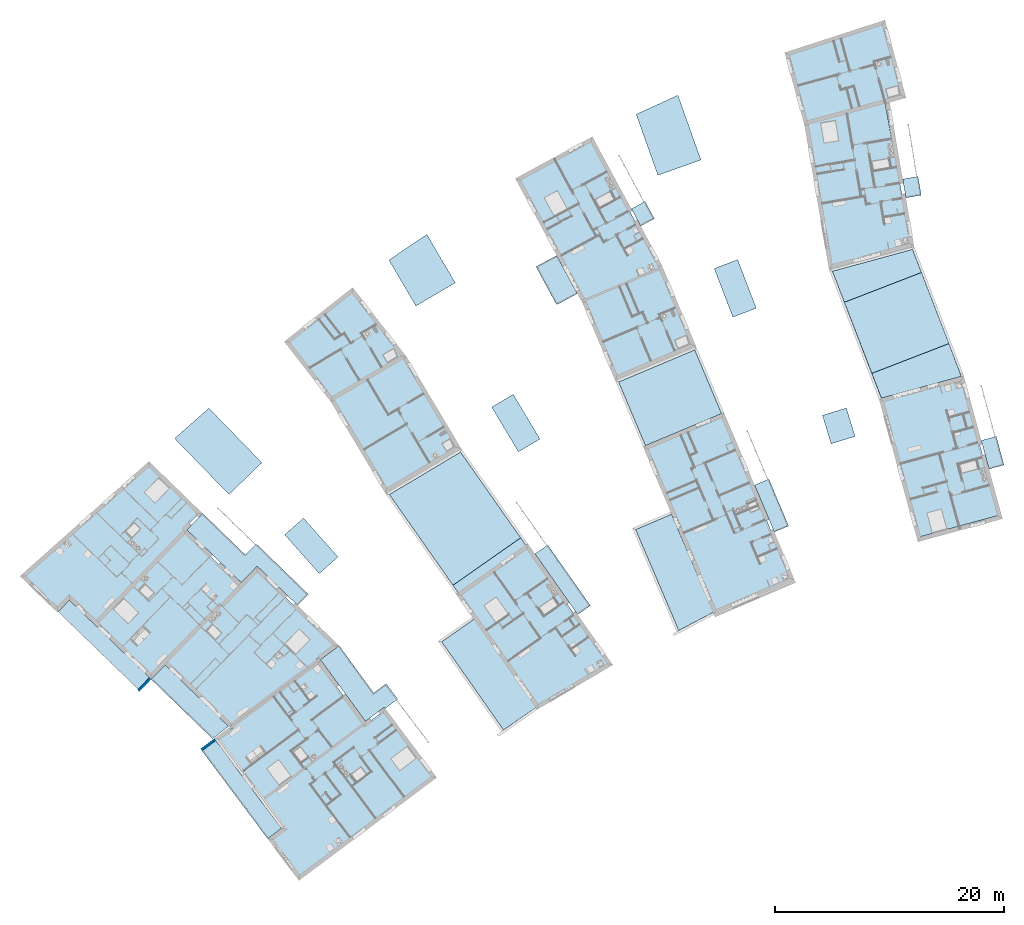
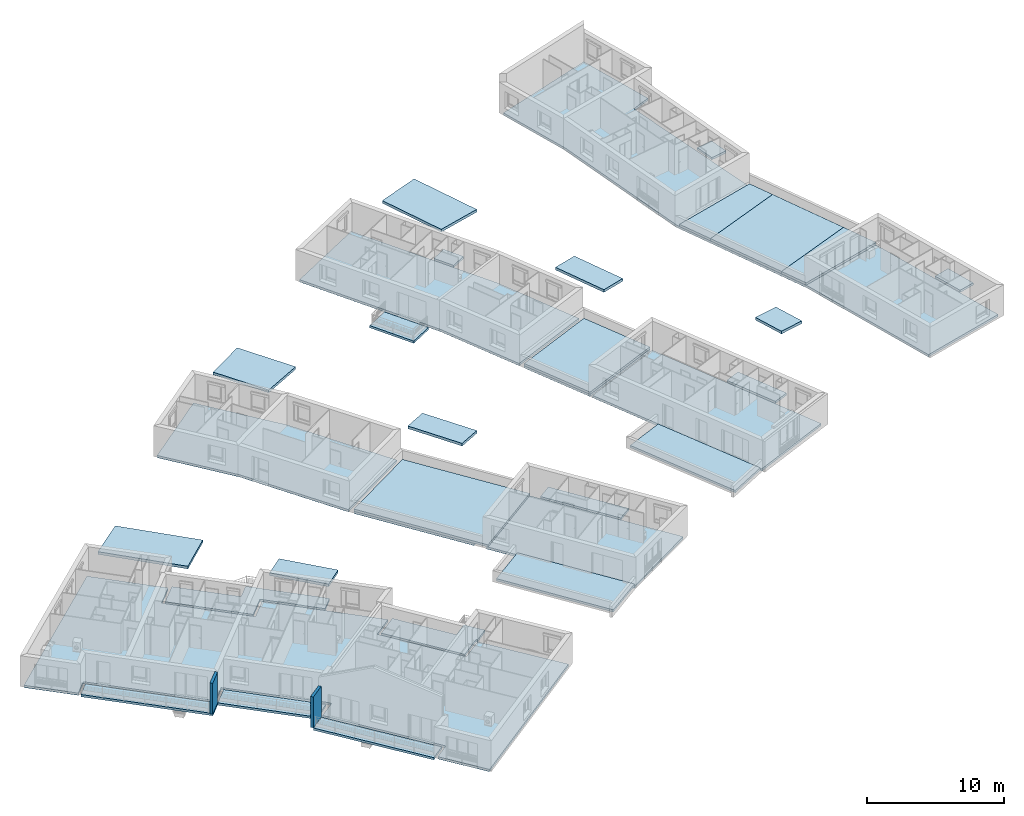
# One storey, part 1 of 121: 33 slabs, 2 walls.
"""IFC2X3 building model written with IfcOpenShell, lengths in metres."""

from ifc_helpers import new_model, entity, si_unit, converted_unit, derived_unit, money_unit, direction, frame, origin_with_axes, place, context, subcontext, project, spatial, polyline, outline, extrude, material, layer, layer_set, layer_usage, type_object, element, save


model = new_model("IFC2X3")

# Units and contexts
model_context = context("Model", 3, precision=1e-05, world=origin_with_axes(), true_north=direction((0.0, 1.0)))
body_context = subcontext(model_context, "Body", "Model", "MODEL_VIEW")
ifc_project = project(units=[si_unit("LENGTHUNIT", "METRE"), si_unit("AREAUNIT", "SQUARE_METRE"), si_unit("VOLUMEUNIT", "CUBIC_METRE"), converted_unit("PLANEANGLEUNIT", "DEGREE", entity("IfcPlaneAngleMeasure", 0.0174532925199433), si_unit("PLANEANGLEUNIT", "RADIAN"), dimensions=[0, 0, 0, 0, 0, 0, 0]), money_unit("CHF"), converted_unit("TIMEUNIT", "Year", entity("IfcTimeMeasure", 31557600.0), si_unit("TIMEUNIT", "SECOND"), dimensions=[0, 0, 1, 0, 0, 0, 0]), si_unit("MASSUNIT", "GRAM", prefix="KILO"), si_unit("THERMODYNAMICTEMPERATUREUNIT", "DEGREE_CELSIUS"), si_unit("LUMINOUSINTENSITYUNIT", "LUMEN"), si_unit("ENERGYUNIT", "JOULE", prefix="MEGA"), derived_unit("THERMALCONDUCTANCEUNIT", [(si_unit("POWERUNIT", "WATT"), 1), (si_unit("LENGTHUNIT", "METRE"), -1), (si_unit("THERMODYNAMICTEMPERATUREUNIT", "KELVIN"), -1)]), derived_unit("SPECIFICHEATCAPACITYUNIT", [(si_unit("ENERGYUNIT", "JOULE"), 1), (si_unit("MASSUNIT", "GRAM", prefix="KILO"), -1), (si_unit("THERMODYNAMICTEMPERATUREUNIT", "KELVIN"), -1)]), derived_unit("MASSDENSITYUNIT", [(si_unit("MASSUNIT", "GRAM", prefix="KILO"), 1), (si_unit("VOLUMEUNIT", "CUBIC_METRE"), -1)])], contexts=[model_context])

# Site, building, storey
site_placement = place(None, origin_with_axes())
site = spatial("IfcSite", under=ifc_project, at=site_placement, Name="Site", CompositionType="ELEMENT")
building_placement = place(site_placement, origin_with_axes())
building = spatial("IfcBuilding", under=site, at=building_placement, Name="Bâtiment", CompositionType="ELEMENT")
storey_placement = place(building_placement, frame((0.0, 0.0, 2.75), z_axis=(0.0, 0.0, 1.0), x_axis=(1.0, 0.0, 0.0)))
storey = spatial("IfcBuildingStorey", under=building, at=storey_placement, Name="Etage 1", CompositionType="ELEMENT", Elevation=2.75)

# Slabs
ifc_material_1 = material(Name="ANSI31 297159430")
ifc_layer_1 = layer(ifc_material_1, 0.2, ventilated="UNKNOWN")
ifc_layer_set_1 = layer_set([ifc_layer_1], Name="ANSI31 297159430 0.2")
ifc_layer_usage_1 = layer_usage(ifc_layer_set_1, "AXIS3", "NEGATIVE", 0.2)
slab_type_1 = type_object("IfcSlabType", Name="ANSI31 297159430 200", PredefinedType="FLOOR")
slab_1_placement = place(storey_placement, frame((9551.099786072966, -1066.072133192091, 57.9), z_axis=(0.0, 0.0, 1.0), x_axis=(1.0, 0.0, 0.0)))
element("IfcSlab", 1, at=slab_1_placement, inside=storey, type_object=slab_type_1, material=ifc_layer_usage_1, Name="Dalle-098", PredefinedType="FLOOR", context=body_context, shape_type="SweptSolid", body=[
    extrude(outline(polyline([(0.0, 0.0), (-2.983970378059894, -2.092567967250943), (2.4244272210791, -9.804861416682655), (5.418021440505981, -7.72601690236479), (0.0, 0.0)])), frame((0.0, 0.0, -0.2), z_axis=(0.0, 0.0, 1.0), x_axis=(1.0, 0.0, 0.0)), (0.0, 0.0, 1.0), 0.2),
])
ifc_layer_usage_2 = layer_usage(ifc_layer_set_1, "AXIS3", "NEGATIVE", 0.2)
slab_2_placement = place(storey_placement, frame((9568.212031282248, -1057.011471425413, 57.9), z_axis=(0.0, 0.0, 1.0), x_axis=(1.0, 0.0, 0.0)))
element("IfcSlab", 2, at=slab_2_placement, inside=storey, type_object=slab_type_1, material=ifc_layer_usage_2, Name="Dalle-096", PredefinedType="FLOOR", context=body_context, shape_type="SweptSolid", body=[
    extrude(outline(polyline([(0.0, 0.0), (-3.14501651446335, -1.343067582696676), (0.6238261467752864, -10.16844060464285), (3.660112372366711, -8.570762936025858), (0.0, 0.0)])), frame((0.0, 0.0, -0.2), z_axis=(0.0, 0.0, 1.0), x_axis=(1.0, 0.0, 0.0)), (0.0, 0.0, 1.0), 0.2),
])
ifc_layer_usage_3 = layer_usage(ifc_layer_set_1, "AXIS3", "NEGATIVE", 0.2)
slab_3_placement = place(storey_placement, frame((9585.711219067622, -1044.701802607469, 57.9), z_axis=(0.0, 0.0, 1.0), x_axis=(1.0, 0.0, 0.0)))
element("IfcSlab", 3, at=slab_3_placement, inside=storey, type_object=slab_type_1, material=ifc_layer_usage_3, Name="Dalle-096", PredefinedType="FLOOR", context=body_context, shape_type="SweptSolid", body=[
    extrude(outline(polyline([(0.0, 0.0), (0.8371229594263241, -2.168008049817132), (7.811981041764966, -0.2687509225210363), (7.751767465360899, -0.0476217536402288), (6.744302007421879, 2.60500514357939), (0.0, 0.0)])), frame((0.0, 0.0, -0.2), z_axis=(0.0, 0.0, 1.0), x_axis=(1.0, 0.0, 0.0)), (0.0, 0.0, 1.0), 0.2),
])
ifc_layer_usage_4 = layer_usage(ifc_layer_set_1, "AXIS3", "NEGATIVE", 0.2)
slab_4_placement = place(storey_placement, frame((9582.262394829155, -1035.773684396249, 57.9), z_axis=(0.0, 0.0, 1.0), x_axis=(1.0, 0.0, 0.0)))
element("IfcSlab", 4, at=slab_4_placement, inside=storey, type_object=slab_type_1, material=ifc_layer_usage_4, Name="Dalle-098", PredefinedType="FLOOR", context=body_context, shape_type="SweptSolid", body=[
    extrude(outline(polyline([(0.0, 0.0), (1.048684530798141, -2.714208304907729), (7.792986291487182, -0.1092030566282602), (7.011382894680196, 1.909202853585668), (0.0, 0.0)])), frame((0.0, 0.0, -0.2), z_axis=(0.0, 0.0, 1.0), x_axis=(1.0, 0.0, 0.0)), (0.0, 0.0, 1.0), 0.2),
])
ifc_layer_usage_5 = layer_usage(ifc_layer_set_1, "AXIS3", "NEGATIVE", 0.2)
slab_5_placement = place(storey_placement, frame((9543.539236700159, -1055.29090376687, 57.9), z_axis=(0.0, 0.0, 1.0), x_axis=(1.0, 0.0, 0.0)))
element("IfcSlab", 5, at=slab_5_placement, inside=storey, type_object=slab_type_1, material=ifc_layer_usage_5, Name="Dalle-097", PredefinedType="FLOOR", context=body_context, shape_type="SweptSolid", body=[
    extrude(outline(polyline([(0.0, 0.0), (6.201008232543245, -8.842544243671), (12.12045163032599, -4.691418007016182), (6.228291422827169, 3.710713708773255), (0.0, 0.0)])), frame((0.0, 0.0, -0.2), z_axis=(0.0, 0.0, 1.0), x_axis=(1.0, 0.0, 0.0)), (0.0, 0.0, 1.0), 0.2),
])
ifc_layer_usage_6 = layer_usage(ifc_layer_set_1, "AXIS3", "NEGATIVE", 0.2)
slab_6_placement = place(storey_placement, frame((9583.311079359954, -1038.487892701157, 57.9), z_axis=(0.0, 0.0, 1.0), x_axis=(1.0, 0.0, 0.0)))
element("IfcSlab", 6, at=slab_6_placement, inside=storey, type_object=slab_type_1, material=ifc_layer_usage_6, Name="Dalle-096", PredefinedType="FLOOR", context=body_context, shape_type="SweptSolid", body=[
    extrude(outline(polyline([(0.0, 0.0), (2.400139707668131, -6.213909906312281), (9.14444171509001, -3.608904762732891), (6.744301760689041, 2.605005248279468), (0.0, 0.0)])), frame((0.0, 0.0, -0.2), z_axis=(0.0, 0.0, 1.0), x_axis=(1.0, 0.0, 0.0)), (0.0, 0.0, 1.0), 0.2),
])
ifc_layer_usage_7 = layer_usage(ifc_layer_set_1, "AXIS3", "NEGATIVE", 0.2)
slab_7_placement = place(storey_placement, frame((9563.576199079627, -1045.454761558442, 57.9), z_axis=(0.0, 0.0, 1.0), x_axis=(1.0, 0.0, 0.0)))
element("IfcSlab", 7, at=slab_7_placement, inside=storey, type_object=slab_type_1, material=ifc_layer_usage_7, Name="Dalle-096", PredefinedType="FLOOR", context=body_context, shape_type="SweptSolid", body=[
    extrude(outline(polyline([(0.0, 0.0), (2.348400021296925, -5.568832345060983), (9.010191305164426, -2.759526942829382), (6.66179128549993, 2.809305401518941), (0.0, 0.0)])), frame((0.0, 0.0, -0.2), z_axis=(0.0, 0.0, 1.0), x_axis=(1.0, 0.0, 0.0)), (0.0, 0.0, 1.0), 0.2),
])
ifc_material_2 = material(Name="AS_EMPTY 272048125")
ifc_layer_2 = layer(ifc_material_2, 0.2, ventilated="UNKNOWN")
ifc_layer_set_2 = layer_set([ifc_layer_2], Name="AS_EMPTY 272048125 0.2")
ifc_layer_usage_8 = layer_usage(ifc_layer_set_2, "AXIS3", "NEGATIVE", 0.2)
slab_type_2 = type_object("IfcSlabType", Name="AS_EMPTY 272048125 200", PredefinedType="FLOOR")
slab_8_placement = place(storey_placement, frame((9522.521684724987, -1052.692725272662, 57.7), z_axis=(0.0, 0.0, 1.0), x_axis=(1.0, 0.0, 0.0)))
element("IfcSlab", 8, at=slab_8_placement, inside=storey, type_object=slab_type_2, material=ifc_layer_usage_8, Name="Dalle-096", PredefinedType="FLOOR", context=body_context, shape_type="SweptSolid", body=[
    extrude(outline(polyline([(0.0, 0.0), (-10.93934519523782, -9.734192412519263), (-7.9980331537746, -12.58411149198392), (-6.954241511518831, -11.50684689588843), (0.197133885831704, -18.43601350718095), (1.398713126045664, -17.19590128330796), (7.107644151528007, -22.64329406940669), (7.358726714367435, -22.97942778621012), (6.02839451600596, -23.97368717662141), (11.8953787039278, -31.82804065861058), (10.69363445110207, -32.72571028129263), (13.1629575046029, -36.03148638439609), (24.86244409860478, -27.29229441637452), (20.53572784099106, -21.49995582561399), (18.88328802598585, -22.73428253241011), (14.66733181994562, -16.99641707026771), (16.29028828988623, -15.78411360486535), (9.47309243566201, -9.178742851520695), (8.081370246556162, -10.61509564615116), (3.000994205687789, -5.692577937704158), (4.392716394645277, -4.256225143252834), (0.0, 0.0)])), frame((0.0, 0.0, -0.2), z_axis=(0.0, 0.0, 1.0), x_axis=(1.0, 0.0, 0.0)), (0.0, 0.0, 1.0), 0.2),
])
ifc_layer_usage_9 = layer_usage(ifc_layer_set_2, "AXIS3", "NEGATIVE", 0.2)
slab_9_placement = place(storey_placement, frame((9572.671875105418, -1048.417001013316, 57.7), z_axis=(0.0, 0.0, 1.0), x_axis=(1.0, 0.0, 0.0)))
element("IfcSlab", 9, at=slab_9_placement, inside=storey, type_object=slab_type_2, material=ifc_layer_usage_9, Name="Dalle-094", PredefinedType="FLOOR", context=body_context, shape_type="SweptSolid", body=[
    extrude(outline(polyline([(0.0, 0.0), (-6.661791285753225, -2.809305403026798), (-0.6370662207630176, -17.09591906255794), (6.012116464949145, -14.25671451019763), (0.0, 0.0)])), frame((0.0, 0.0, -0.2), z_axis=(0.0, 0.0, 1.0), x_axis=(1.0, 0.0, 0.0)), (0.0, 0.0, 1.0), 0.2),
])
ifc_layer_usage_10 = layer_usage(ifc_layer_set_2, "AXIS3", "NEGATIVE", 0.2)
slab_10_placement = place(storey_placement, frame((9561.196989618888, -1024.307247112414, 57.7), z_axis=(0.0, 0.0, 1.0), x_axis=(1.0, 0.0, 0.0)))
element("IfcSlab", 10, at=slab_10_placement, inside=storey, type_object=slab_type_2, material=ifc_layer_usage_10, Name="Dalle-093", PredefinedType="FLOOR", context=body_context, shape_type="SweptSolid", body=[
    extrude(outline(polyline([(0.0, 0.0), (-6.352161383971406, -3.452832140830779), (-0.5829622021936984, -14.12322674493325), (2.200468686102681, -20.72366100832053), (8.862259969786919, -17.91435560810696), (5.959633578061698, -11.0312694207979), (0.0, 0.0)])), frame((0.0, 0.0, -0.2), z_axis=(0.0, 0.0, 1.0), x_axis=(1.0, 0.0, 0.0)), (0.0, 0.0, 1.0), 0.2),
])
ifc_layer_usage_11 = layer_usage(ifc_layer_set_2, "AXIS3", "NEGATIVE", 0.2)
slab_11_placement = place(storey_placement, frame((9543.539236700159, -1055.29090376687, 57.7), z_axis=(0.0, 0.0, 1.0), x_axis=(1.0, 0.0, 0.0)))
element("IfcSlab", 11, at=slab_11_placement, inside=storey, type_object=slab_type_2, material=ifc_layer_usage_11, Name="Dalle-088", PredefinedType="FLOOR", context=body_context, shape_type="SweptSolid", body=[
    extrude(outline(polyline([(0.0, 0.0), (5.56291072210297, -7.932626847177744), (11.48229342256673, -3.781543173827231), (6.228291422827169, 3.710713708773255), (0.0, 0.0)])), frame((0.0, 0.0, -0.2), z_axis=(0.0, 0.0, 1.0), x_axis=(1.0, 0.0, 0.0)), (0.0, 0.0, 1.0), 0.2),
])
ifc_layer_usage_12 = layer_usage(ifc_layer_set_2, "AXIS3", "NEGATIVE", 0.2)
slab_12_placement = place(storey_placement, frame((9534.64305306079, -1041.94168529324, 57.7), z_axis=(0.0, 0.0, 1.0), x_axis=(1.0, 0.0, 0.0)))
element("IfcSlab", 12, at=slab_12_placement, inside=storey, type_object=slab_type_2, material=ifc_layer_usage_12, Name="Dalle-089", PredefinedType="FLOOR", context=body_context, shape_type="SweptSolid", body=[
    extrude(outline(polyline([(0.0, 0.0), (3.992648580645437, -5.151989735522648), (8.646157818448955, -12.96272748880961), (14.8754939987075, -9.251391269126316), (10.22198476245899, -1.440653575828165), (5.641237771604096, 4.462312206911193), (0.0, 0.0)])), frame((0.0, 0.0, -0.2), z_axis=(0.0, 0.0, 1.0), x_axis=(1.0, 0.0, 0.0)), (0.0, 0.0, 1.0), 0.2),
])
ifc_layer_usage_13 = layer_usage(ifc_layer_set_2, "AXIS3", "NEGATIVE", 0.2)
slab_13_placement = place(storey_placement, frame((9580.044478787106, -1022.984933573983, 57.7), z_axis=(0.0, 0.0, 1.0), x_axis=(1.0, 0.0, 0.0)))
element("IfcSlab", 13, at=slab_13_placement, inside=storey, type_object=slab_type_2, material=ifc_layer_usage_13, Name="Dalle-093", PredefinedType="FLOOR", context=body_context, shape_type="SweptSolid", body=[
    extrude(outline(polyline([(0.0, 0.0), (2.141425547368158, -12.5782651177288), (6.561664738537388, -24.09714810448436), (9.808341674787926, -36.02028928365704), (16.78425475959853, -34.12074487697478), (13.53757966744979, -22.19760319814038), (9.157430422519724, -10.69183561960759), (6.839805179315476, 1.853653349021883), (8.397883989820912, 2.514758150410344), (6.661972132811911, 8.889744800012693), (-1.682386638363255, 6.178419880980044), (0.0, 0.0)])), frame((0.0, 0.0, -0.2), z_axis=(0.0, 0.0, 1.0), x_axis=(1.0, 0.0, 0.0)), (0.0, 0.0, 1.0), 0.2),
])
ifc_layer_usage_14 = layer_usage(ifc_layer_set_2, "AXIS3", "NEGATIVE", 0.2)
slab_14_placement = place(storey_placement, frame((9563.576199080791, -1045.454761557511, 57.7), z_axis=(0.0, 0.0, 1.0), x_axis=(1.0, 0.0, 0.0)))
element("IfcSlab", 14, at=slab_14_placement, inside=storey, type_object=slab_type_2, material=ifc_layer_usage_14, Name="Dalle-090", PredefinedType="FLOOR", context=body_context, shape_type="SweptSolid", body=[
    extrude(outline(polyline([(0.0, 0.0), (2.348400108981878, -5.56883230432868), (9.01019156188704, -2.759526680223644), (6.661791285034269, 2.809305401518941), (0.0, 0.0)])), frame((0.0, 0.0, -0.2), z_axis=(0.0, 0.0, 1.0), x_axis=(1.0, 0.0, 0.0)), (0.0, 0.0, 1.0), 0.2),
])
ifc_layer_usage_15 = layer_usage(ifc_layer_set_2, "AXIS3", "NEGATIVE", 0.2)
slab_15_placement = place(storey_placement, frame((9562.758987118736, -1070.105814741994, 57.7), z_axis=(0.0, 0.0, 1.0), x_axis=(1.0, 0.0, 0.0)))
element("IfcSlab", 15, at=slab_15_placement, inside=storey, type_object=slab_type_2, material=ifc_layer_usage_15, Name="Dalle-095", PredefinedType="FLOOR", context=body_context, shape_type="SweptSolid", body=[
    extrude(outline(polyline([(0.0, 0.0), (-7.176497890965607, 10.23357781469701), (-13.08836495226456, 6.071647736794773), (-6.241179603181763, -3.692335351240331), (0.0, 0.0)])), frame((0.0, 0.0, -0.2), z_axis=(0.0, 0.0, 1.0), x_axis=(1.0, 0.0, 0.0)), (0.0, 0.0, 1.0), 0.2),
])
ifc_material_3 = material(Name="MANQUANT")
ifc_layer_3 = layer(ifc_material_3, 0.2349231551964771, ventilated="UNKNOWN")
ifc_layer_set_3 = layer_set([ifc_layer_3], Name="MANQUANT 0.234923")
ifc_layer_usage_16 = layer_usage(ifc_layer_set_3, "AXIS3", "NEGATIVE", 0.2349231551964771)
slab_type_3 = type_object("IfcSlabType", Name="MANQUANT 235", PredefinedType="ROOF")
slab_16_placement = place(storey_placement, frame((9570.780394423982, -1026.049929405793, 57.11422482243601), z_axis=(0.0, 0.0, 1.0), x_axis=(-0.3352868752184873, 0.9421160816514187, 0.0)))
element("IfcSlab", 16, at=slab_16_placement, inside=storey, type_object=slab_type_3, material=ifc_layer_usage_16, Name="Toit-041", PredefinedType="ROOF", context=body_context, shape_type="SweptSolid", body=[
    extrude(outline(polyline([(5.656288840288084, 4.015279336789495), (-1.473949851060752e-09, 4.015279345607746), (0.0, 0.0), (6.011017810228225, -1.374406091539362e-08), (5.656288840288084, 4.015279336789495)])), frame((0.0, 0.0, 0.0), z_axis=(0.0, -0.08715574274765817, 0.9961946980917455), x_axis=(1.0, 0.0, 0.0)), (0.0, 0.08715574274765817, 0.9961946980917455), 0.2358205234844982),
])
ifc_layer_usage_17 = layer_usage(ifc_layer_set_3, "AXIS3", "NEGATIVE", 0.2349231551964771)
slab_17_placement = place(storey_placement, frame((9549.30767197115, -1036.786920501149, 57.11422482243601), z_axis=(0.0, 0.0, 1.0), x_axis=(-0.5069461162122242, 0.8619777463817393, 0.0)))
element("IfcSlab", 17, at=slab_17_placement, inside=storey, type_object=slab_type_3, material=ifc_layer_usage_17, Name="Toit-041", PredefinedType="ROOF", context=body_context, shape_type="SweptSolid", body=[
    extrude(outline(polyline([(4.656288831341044, 4.015279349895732), (-1.473949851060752e-09, 4.015279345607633), (0.0, 0.0), (4.911132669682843, -1.122917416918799e-08), (4.656288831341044, 4.015279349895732)])), frame((0.0, 0.0, 0.0), z_axis=(0.0, -0.08715574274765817, 0.9961946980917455), x_axis=(1.0, 0.0, 0.0)), (0.0, 0.08715574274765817, 0.9961946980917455), 0.2358205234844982),
])
ifc_layer_usage_18 = layer_usage(ifc_layer_set_3, "AXIS3", "NEGATIVE", 0.2349231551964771)
slab_18_placement = place(storey_placement, frame((9584.25368683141, -1050.212626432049, 57.11422482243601), z_axis=(0.0, 0.0, 1.0), x_axis=(-0.2935988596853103, 0.9559287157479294, 0.0)))
element("IfcSlab", 18, at=slab_18_placement, inside=storey, type_object=slab_type_3, material=ifc_layer_usage_18, Name="Toit-041", PredefinedType="ROOF", context=body_context, shape_type="SweptSolid", body=[
    extrude(outline(polyline([(2.602979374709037, 2.20148597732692), (0.0, 2.201485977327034), (0.0, 0.0), (2.599200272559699, 0.0), (2.602979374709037, 2.20148597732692)])), frame((0.0, 0.0, 0.0), z_axis=(0.0, -0.08715574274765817, 0.9961946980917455), x_axis=(1.0, 0.0, 0.0)), (0.0, 0.08715574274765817, 0.9961946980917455), 0.2358205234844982),
])
ifc_layer_usage_19 = layer_usage(ifc_layer_set_3, "AXIS3", "NEGATIVE", 0.2349231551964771)
slab_19_placement = place(storey_placement, frame((9575.618741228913, -1039.004407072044, 57.11422482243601), z_axis=(0.0, 0.0, 1.0), x_axis=(-0.3593252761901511, 0.9332123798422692, 0.0)))
element("IfcSlab", 19, at=slab_19_placement, inside=storey, type_object=slab_type_3, material=ifc_layer_usage_19, Name="Toit-041", PredefinedType="ROOF", context=body_context, shape_type="SweptSolid", body=[
    extrude(outline(polyline([(4.552099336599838, 2.201485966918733), (4.995285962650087e-09, 2.201485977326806), (0.0, 0.0), (4.552099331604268, -1.040830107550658e-08), (4.552099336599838, 2.201485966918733)])), frame((0.0, 0.0, 0.0), z_axis=(0.0, -0.08715574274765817, 0.9961946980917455), x_axis=(1.0, 0.0, 0.0)), (0.0, 0.08715574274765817, 0.9961946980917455), 0.2358205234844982),
])
ifc_layer_usage_20 = layer_usage(ifc_layer_set_3, "AXIS3", "NEGATIVE", 0.2349231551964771)
slab_20_placement = place(storey_placement, frame((9530.887106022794, -1050.949551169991, 57.11423465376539), z_axis=(0.0, 0.0, 1.0), x_axis=(-0.6970514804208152, 0.7170210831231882, 0.0)))
element("IfcSlab", 20, at=slab_20_placement, inside=storey, type_object=slab_type_3, material=ifc_layer_usage_20, Name="Toit-041", PredefinedType="ROOF", context=body_context, shape_type="SweptSolid", body=[
    extrude(outline(polyline([(4.664971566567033, 4.015166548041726), (4.656288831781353, 4.015279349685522), (-2.170644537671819, 4.015279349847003), (-2.170644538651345, 0.0), (4.47535135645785, 0.0), (4.664971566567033, 4.015166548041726)])), frame((0.0, 0.0, 0.0), z_axis=(0.0, -0.08715574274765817, 0.9961946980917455), x_axis=(1.0, 0.0, 0.0)), (0.0, 0.08715574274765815, 0.9961946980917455), 0.2358205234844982),
])
ifc_layer_usage_21 = layer_usage(ifc_layer_set_3, "AXIS3", "NEGATIVE", 0.2349231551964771)
slab_21_placement = place(storey_placement, frame((9539.059533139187, -1060.748717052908, 57.11422482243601), z_axis=(0.0, 0.0, 1.0), x_axis=(-0.6639769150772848, 0.7477530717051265, 0.0)))
element("IfcSlab", 21, at=slab_21_placement, inside=storey, type_object=slab_type_3, material=ifc_layer_usage_21, Name="Toit-041", PredefinedType="ROOF", context=body_context, shape_type="SweptSolid", body=[
    extrude(outline(polyline([(4.552097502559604, 2.20558872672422), (4.995627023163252e-09, 2.201486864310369), (0.0, 0.0), (4.554066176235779, 0.004103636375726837), (4.552097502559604, 2.20558872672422)])), frame((0.0, 0.0, 0.0), z_axis=(0.0, -0.08715574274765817, 0.9961946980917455), x_axis=(1.0, 0.0, 0.0)), (0.0, 0.08715574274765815, 0.9961946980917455), 0.2358205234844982),
])
ifc_layer_usage_22 = layer_usage(ifc_layer_set_3, "AXIS3", "NEGATIVE", 0.2349231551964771)
slab_22_placement = place(storey_placement, frame((9556.70569236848, -1050.443554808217, 57.11422482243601), z_axis=(0.0, 0.0, 1.0), x_axis=(-0.5107648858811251, 0.8597204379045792, 0.0)))
element("IfcSlab", 22, at=slab_22_placement, inside=storey, type_object=slab_type_3, material=ifc_layer_usage_22, Name="Toit-041", PredefinedType="ROOF", context=body_context, shape_type="SweptSolid", body=[
    extrude(outline(polyline([(4.552097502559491, 2.20558872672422), (4.995627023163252e-09, 2.201486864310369), (0.0, 0.0), (4.554066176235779, 0.004103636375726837), (4.552097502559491, 2.20558872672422)])), frame((0.0, 0.0, 0.0), z_axis=(0.0, -0.08715574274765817, 0.9961946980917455), x_axis=(1.0, 0.0, 0.0)), (0.0, 0.08715574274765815, 0.9961946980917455), 0.2358205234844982),
])
ifc_material_4 = material(Name="100 % 3085578557")
ifc_layer_4 = layer(ifc_material_4, 0.2, ventilated="UNKNOWN")
ifc_layer_set_4 = layer_set([ifc_layer_4], Name="100 % 3085578557 0.2")
ifc_layer_usage_23 = layer_usage(ifc_layer_set_4, "AXIS3", "NEGATIVE", 0.2)
slab_type_4 = type_object("IfcSlabType", Name="100 % 3085578557 200", PredefinedType="FLOOR")
slab_23_placement = place(storey_placement, frame((9556.276010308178, -1060.478018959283, 57.7), z_axis=(0.0, 0.0, 1.0), x_axis=(1.0, 0.0, 0.0)))
element("IfcSlab", 23, at=slab_23_placement, inside=storey, type_object=slab_type_4, material=ifc_layer_usage_23, Name="Dalle-086", PredefinedType="FLOOR", context=body_context, shape_type="SweptSolid", body=[
    extrude(outline(polyline([(0.0, 0.0), (3.718916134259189, -5.303118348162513), (4.840767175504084, -4.530083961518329), (1.111396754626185, 0.779388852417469), (0.0, 0.0)])), frame((0.0, 0.0, -0.2), z_axis=(0.0, 0.0, 1.0), x_axis=(1.0, 0.0, 0.0)), (0.0, 0.0, 1.0), 0.2),
])
ifc_layer_usage_24 = layer_usage(ifc_layer_set_4, "AXIS3", "NEGATIVE", 0.2)
slab_24_placement = place(storey_placement, frame((9558.162248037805, -1038.709051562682, 57.7), z_axis=(0.0, 0.0, 1.0), x_axis=(1.0, 0.0, 0.0)))
element("IfcSlab", 24, at=slab_24_placement, inside=storey, type_object=slab_type_4, material=ifc_layer_usage_24, Name="Dalle-086", PredefinedType="FLOOR", context=body_context, shape_type="SweptSolid", body=[
    extrude(outline(polyline([(0.0, 0.0), (1.80617170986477, 0.9757826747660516), (0.007400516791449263, 4.305304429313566), (-1.798771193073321, 3.3295217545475), (0.0, 0.0)])), frame((0.0, 0.0, -0.2), z_axis=(0.0, 0.0, 1.0), x_axis=(1.0, 0.0, 0.0)), (0.0, 0.0, 1.0), 0.2),
])
ifc_layer_usage_25 = layer_usage(ifc_layer_set_4, "AXIS3", "NEGATIVE", 0.2)
slab_25_placement = place(storey_placement, frame((9525.833767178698, -1058.380393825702, 57.7), z_axis=(0.0, 0.0, 1.0), x_axis=(1.0, 0.0, 0.0)))
element("IfcSlab", 25, at=slab_25_placement, inside=storey, type_object=slab_type_4, material=ifc_layer_usage_25, Name="Dalle-086", PredefinedType="FLOOR", context=body_context, shape_type="SweptSolid", body=[
    extrude(outline(polyline([(0.0, 0.0), (4.764378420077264, -4.616338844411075), (6.15610061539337, -3.179986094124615), (9.681886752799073, -6.596218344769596), (10.62299870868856, -5.624926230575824), (6.079568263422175, -1.222670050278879), (5.13845628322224, -2.193962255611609), (1.391722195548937, 1.43635275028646), (0.0, 0.0)])), frame((0.0, 0.0, -0.2), z_axis=(0.0, 0.0, 1.0), x_axis=(1.0, 0.0, 0.0)), (0.0, 0.0, 1.0), 0.2),
])
ifc_layer_usage_26 = layer_usage(ifc_layer_set_4, "AXIS3", "NEGATIVE", 0.2)
slab_26_placement = place(storey_placement, frame((9577.19200006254, -1058.569527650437, 57.7), z_axis=(0.0, 0.0, 1.0), x_axis=(1.0, 0.0, 0.0)))
element("IfcSlab", 26, at=slab_26_placement, inside=storey, type_object=slab_type_4, material=ifc_layer_usage_26, Name="Dalle-086", PredefinedType="FLOOR", context=body_context, shape_type="SweptSolid", body=[
    extrude(outline(polyline([(0.0, 0.0), (1.249800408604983, 0.527254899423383), (-0.4809770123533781, 4.631477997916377), (-1.731752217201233, 4.104020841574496), (0.0, 0.0)])), frame((0.0, 0.0, -0.2), z_axis=(0.0, 0.0, 1.0), x_axis=(1.0, 0.0, 0.0)), (0.0, 0.0, 1.0), 0.2),
])
ifc_layer_usage_27 = layer_usage(ifc_layer_set_4, "AXIS3", "NEGATIVE", 0.2)
slab_27_placement = place(storey_placement, frame((9522.723727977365, -1071.439827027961, 57.7), z_axis=(0.0, 0.0, 1.0), x_axis=(1.0, 0.0, 0.0)))
element("IfcSlab", 27, at=slab_27_placement, inside=storey, type_object=slab_type_4, material=ifc_layer_usage_27, Name="Dalle-086", PredefinedType="FLOOR", context=body_context, shape_type="SweptSolid", body=[
    extrude(outline(polyline([(0.0, 0.0), (-7.151375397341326, 6.929166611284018), (-8.129060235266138, 5.920128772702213), (-0.977684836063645, -1.00903783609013), (0.0, 0.0)])), frame((0.0, 0.0, -0.2), z_axis=(0.0, 0.0, 1.0), x_axis=(1.0, 0.0, 0.0)), (0.0, 0.0, 1.0), 0.2),
])
ifc_layer_usage_28 = layer_usage(ifc_layer_set_4, "AXIS3", "NEGATIVE", 0.2)
slab_28_placement = place(storey_placement, frame((9588.695865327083, -1029.362295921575, 57.7), z_axis=(0.0, 0.0, 1.0), x_axis=(1.0, 0.0, 0.0)))
element("IfcSlab", 28, at=slab_28_placement, inside=storey, type_object=slab_type_4, material=ifc_layer_usage_28, Name="Dalle-086", PredefinedType="FLOOR", context=body_context, shape_type="SweptSolid", body=[
    extrude(outline(polyline([(0.0, 0.0), (1.340492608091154, 0.2356913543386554), (1.050104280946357, 1.872073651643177), (-0.2874235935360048, 1.634719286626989), (0.0, 0.0)])), frame((0.0, 0.0, -0.2), z_axis=(0.0, 0.0, 1.0), x_axis=(1.0, 0.0, 0.0)), (0.0, 0.0, 1.0), 0.2),
])
ifc_layer_usage_29 = layer_usage(ifc_layer_set_4, "AXIS3", "NEGATIVE", 0.2)
slab_29_placement = place(storey_placement, frame((9595.27613136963, -1050.570473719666, 57.7), z_axis=(0.0, 0.0, 1.0), x_axis=(1.0, 0.0, 0.0)))
element("IfcSlab", 29, at=slab_29_placement, inside=storey, type_object=slab_type_4, material=ifc_layer_usage_29, Name="Dalle-086", PredefinedType="FLOOR", context=body_context, shape_type="SweptSolid", body=[
    extrude(outline(polyline([(0.0, 0.0), (0.678408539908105, -2.48744815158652), (1.990164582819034, -2.141875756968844), (1.309753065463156, 0.3566463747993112), (0.0, 0.0)])), frame((0.0, 0.0, -0.2), z_axis=(0.0, 0.0, 1.0), x_axis=(1.0, 0.0, 0.0)), (0.0, 0.0, 1.0), 0.2),
])
ifc_layer_usage_30 = layer_usage(ifc_layer_set_4, "AXIS3", "NEGATIVE", 0.2)
slab_30_placement = place(storey_placement, frame((9565.501419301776, -1031.813955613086, 57.7), z_axis=(0.0, 0.0, 1.0), x_axis=(1.0, 0.0, 0.0)))
element("IfcSlab", 30, at=slab_30_placement, inside=storey, type_object=slab_type_4, material=ifc_layer_usage_30, Name="Dalle-086", PredefinedType="FLOOR", context=body_context, shape_type="SweptSolid", body=[
    extrude(outline(polyline([(0.0, 0.0), (1.201923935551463, 0.6308405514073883), (0.3926473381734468, 2.13634651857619), (-0.8029884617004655, 1.493614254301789), (0.0, 0.0)])), frame((0.0, 0.0, -0.2), z_axis=(0.0, 0.0, 1.0), x_axis=(1.0, 0.0, 0.0)), (0.0, 0.0, 1.0), 0.2),
])
ifc_layer_usage_31 = layer_usage(ifc_layer_set_4, "AXIS3", "NEGATIVE", 0.2)
slab_31_placement = place(storey_placement, frame((9542.168958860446, -1072.637390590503, 57.7), z_axis=(0.0, 0.0, 1.0), x_axis=(1.0, 0.0, 0.0)))
element("IfcSlab", 31, at=slab_31_placement, inside=storey, type_object=slab_type_4, material=ifc_layer_usage_31, Name="Dalle-086", PredefinedType="FLOOR", context=body_context, shape_type="SweptSolid", body=[
    extrude(outline(polyline([(0.0, 0.0), (-3.018427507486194, 4.138844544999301), (-4.6603167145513, 2.912398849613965), (-0.7175721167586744, -2.48034639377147), (0.7022883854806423, -1.419749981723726), (0.9330513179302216, -1.247376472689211), (1.010102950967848, -1.350385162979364), (2.099910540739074, -0.5351971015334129), (1.088029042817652, 0.81756576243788), (0.0, 0.0)])), frame((0.0, 0.0, -0.2), z_axis=(0.0, 0.0, 1.0), x_axis=(1.0, 0.0, 0.0)), (0.0, 0.0, 1.0), 0.2),
])
ifc_layer_usage_32 = layer_usage(ifc_layer_set_4, "AXIS3", "NEGATIVE", 0.2)
slab_32_placement = place(storey_placement, frame((9534.109149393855, -1084.476168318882, 57.7), z_axis=(0.0, 0.0, 1.0), x_axis=(1.0, 0.0, 0.0)))
element("IfcSlab", 32, at=slab_32_placement, inside=storey, type_object=slab_type_4, material=ifc_layer_usage_32, Name="Dalle-086", PredefinedType="FLOOR", context=body_context, shape_type="SweptSolid", body=[
    extrude(outline(polyline([(0.0, 0.0), (-5.73532552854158, 7.678097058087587), (-6.934728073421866, 6.777292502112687), (-1.201744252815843, -0.8976696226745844), (0.0, 0.0)])), frame((0.0, 0.0, -0.2), z_axis=(0.0, 0.0, 1.0), x_axis=(1.0, 0.0, 0.0)), (0.0, 0.0, 1.0), 0.2),
])
ifc_layer_usage_33 = layer_usage(ifc_layer_set_4, "AXIS3", "NEGATIVE", 0.2)
slab_33_placement = place(storey_placement, frame((9529.4904778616, -1075.559418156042, 57.7), z_axis=(0.0, 0.0, 1.0), x_axis=(1.0, 0.0, 0.0)))
element("IfcSlab", 33, at=slab_33_placement, inside=storey, type_object=slab_type_4, material=ifc_layer_usage_33, Name="Dalle-086", PredefinedType="FLOOR", context=body_context, shape_type="SweptSolid", body=[
    extrude(outline(polyline([(0.0, 0.0), (-5.545791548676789, 5.37347174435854), (-6.766749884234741, 4.119591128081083), (-1.405291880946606, -1.079457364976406), (0.0, 0.0)])), frame((0.0, 0.0, -0.2), z_axis=(0.0, 0.0, 1.0), x_axis=(1.0, 0.0, 0.0)), (0.0, 0.0, 1.0), 0.2),
])

# Walls
ifc_material_5 = material(Name="Parpaing 314940890")
ifc_layer_5 = layer(ifc_material_5, 0.22, ventilated="UNKNOWN")
ifc_layer_set_5 = layer_set([ifc_layer_5], Name="Beton  22 0836643197")
ifc_layer_usage_34 = layer_usage(ifc_layer_set_5, "AXIS2", "NEGATIVE", 0.0)
wall_type = type_object("IfcWallType", Name="Beton  22 0836643197 220", PredefinedType="NOTDEFINED")
wall_1_placement = place(storey_placement, frame((9522.723727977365, -1071.439827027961, 57.7), z_axis=(0.0, 0.0, 1.0), x_axis=(-0.6958610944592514, -0.7181763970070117, 0.0)))
element("IfcWallStandardCase", 34, at=wall_1_placement, inside=storey, type_object=wall_type, material=ifc_layer_usage_34, Name="Mur-113", context=body_context, shape_type="SweptSolid", body=[
    extrude(outline(polyline([(0.0, -0.2200000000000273), (1.50000000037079, -0.2200000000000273), (1.500000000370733, 0.0), (0.0, 0.0), (0.0, -0.2200000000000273)])), origin_with_axes(), (0.0, 0.0, 1.0), 2.75),
])
ifc_layer_usage_35 = layer_usage(ifc_layer_set_5, "AXIS2", "POSITIVE", 0.0)
wall_2_placement = place(storey_placement, frame((9528.242165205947, -1076.621814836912, 57.7), z_axis=(0.0, 0.0, 1.0), x_axis=(-0.801162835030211, -0.5984464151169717, 0.0)))
element("IfcWallStandardCase", 35, at=wall_2_placement, inside=storey, type_object=wall_type, material=ifc_layer_usage_35, Name="Mur-113", context=body_context, shape_type="SweptSolid", body=[
    extrude(outline(polyline([(0.0, 0.0), (1.497877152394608, 0.0), (1.497877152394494, 0.2200000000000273), (0.0, 0.2200000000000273), (0.0, 0.0)])), origin_with_axes(), (0.0, 0.0, 1.0), 2.75),
])

save(model, "model.ifc")
